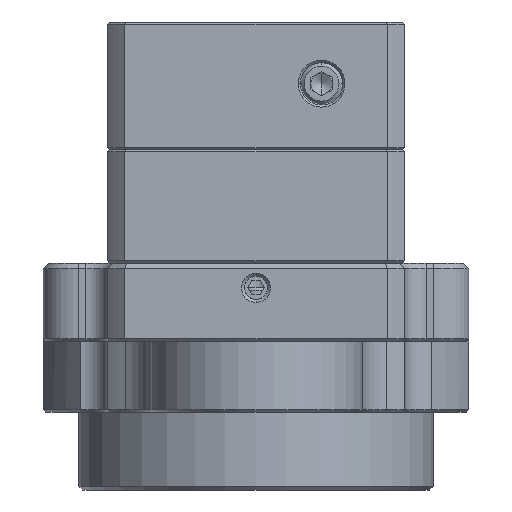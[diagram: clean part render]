
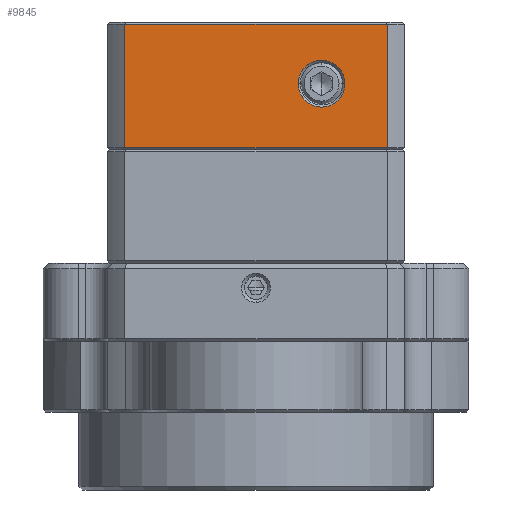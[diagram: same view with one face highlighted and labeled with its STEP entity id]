
A CAD part, front view. The second image highlights one B-rep face of the part: STEP entity #9845.
In plain terms, the highlighted planar face has unit normal (0, -1, 0).
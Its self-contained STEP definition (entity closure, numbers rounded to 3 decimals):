
#162 = CARTESIAN_POINT ( 'NONE',  ( -18.063, -53., 33.7 ) ) ;
#174 = DIRECTION ( 'NONE',  ( -1., 0., 0. ) ) ;
#211 = CARTESIAN_POINT ( 'NONE',  ( -18.52, -53., 16. ) ) ;
#222 = DIRECTION ( 'NONE',  ( 0., 0., -1. ) ) ;
#279 = DIRECTION ( 'NONE',  ( 1., 0., 0. ) ) ;
#293 = CARTESIAN_POINT ( 'NONE',  ( 18.063, -53., 16.3 ) ) ;
#323 = CARTESIAN_POINT ( 'NONE',  ( 9.25, -53., 25.3 ) ) ;
#325 = DIRECTION ( 'NONE',  ( 1., 0., 0. ) ) ;
#368 = DIRECTION ( 'NONE',  ( 0., 1., 0. ) ) ;
#537 = CARTESIAN_POINT ( 'NONE',  ( 18.52, -53., 16. ) ) ;
#551 = DIRECTION ( 'NONE',  ( 0., 0., 1. ) ) ;
#3937 = CIRCLE ( 'NONE', #25421, 3.3 ) ;
#6333 = CARTESIAN_POINT ( 'NONE',  ( -18.52, -53., 16.3 ) ) ;
#6338 = CARTESIAN_POINT ( 'NONE',  ( 18.52, -53., 16.3 ) ) ;
#6356 = CARTESIAN_POINT ( 'NONE',  ( -18.52, -53., 33.7 ) ) ;
#6366 = CARTESIAN_POINT ( 'NONE',  ( 18.52, -53., 33.7 ) ) ;
#6807 = CARTESIAN_POINT ( 'NONE',  ( 12.55, -53., 25.3 ) ) ;
#6874 = CARTESIAN_POINT ( 'NONE',  ( 5.95, -53., 25.3 ) ) ;
#7655 = DIRECTION ( 'NONE',  ( 0., 1., 0. ) ) ;
#7660 = CARTESIAN_POINT ( 'NONE',  ( 9.25, -53., 25.3 ) ) ;
#7684 = DIRECTION ( 'NONE',  ( 1., 0., 0. ) ) ;
#9845 = ADVANCED_FACE ( 'NONE', ( #20940, #20952 ), #21851, .T. ) ;
#10619 = EDGE_CURVE ( 'NONE', #13818, #13824, #25938, .T. ) ;
#10634 = EDGE_CURVE ( 'NONE', #13824, #13834, #25888, .T. ) ;
#10658 = EDGE_CURVE ( 'NONE', #13834, #13810, #25988, .T. ) ;
#10678 = EDGE_CURVE ( 'NONE', #14464, #14429, #25977, .T. ) ;
#10731 = EDGE_CURVE ( 'NONE', #13810, #13818, #26040, .T. ) ;
#13294 = AXIS2_PLACEMENT_3D ( 'NONE', #21826, #21818, #21820 ) ;
#13810 = VERTEX_POINT ( 'NONE', #6338 ) ;
#13818 = VERTEX_POINT ( 'NONE', #6366 ) ;
#13824 = VERTEX_POINT ( 'NONE', #6356 ) ;
#13834 = VERTEX_POINT ( 'NONE', #6333 ) ;
#14429 = VERTEX_POINT ( 'NONE', #6807 ) ;
#14464 = VERTEX_POINT ( 'NONE', #6874 ) ;
#16118 = EDGE_CURVE ( 'NONE', #14429, #14464, #3937, .T. ) ;
#17633 = EDGE_LOOP ( 'NONE', ( #18536, #18507 ) ) ;
#17654 = EDGE_LOOP ( 'NONE', ( #18465, #18509, #18497, #18527 ) ) ;
#18465 = ORIENTED_EDGE ( 'NONE', *, *, #10634, .T. ) ;
#18497 = ORIENTED_EDGE ( 'NONE', *, *, #10731, .T. ) ;
#18507 = ORIENTED_EDGE ( 'NONE', *, *, #10678, .T. ) ;
#18509 = ORIENTED_EDGE ( 'NONE', *, *, #10658, .T. ) ;
#18527 = ORIENTED_EDGE ( 'NONE', *, *, #10619, .T. ) ;
#18536 = ORIENTED_EDGE ( 'NONE', *, *, #16118, .T. ) ;
#20940 = FACE_BOUND ( 'NONE', #17633, .T. ) ;
#20952 = FACE_OUTER_BOUND ( 'NONE', #17654, .T. ) ;
#21818 = DIRECTION ( 'NONE',  ( 0., -1., 0. ) ) ;
#21820 = DIRECTION ( 'NONE',  ( 1., 0., 0. ) ) ;
#21826 = CARTESIAN_POINT ( 'NONE',  ( -21., -53., 16. ) ) ;
#21851 = PLANE ( 'NONE',  #13294 ) ;
#25095 = AXIS2_PLACEMENT_3D ( 'NONE', #323, #368, #325 ) ;
#25421 = AXIS2_PLACEMENT_3D ( 'NONE', #7660, #7655, #7684 ) ;
#25888 = LINE ( 'NONE', #211, #25899 ) ;
#25899 = VECTOR ( 'NONE', #222, 1000. ) ;
#25936 = VECTOR ( 'NONE', #174, 1000. ) ;
#25938 = LINE ( 'NONE', #162, #25936 ) ;
#25970 = VECTOR ( 'NONE', #279, 1000. ) ;
#25977 = CIRCLE ( 'NONE', #25095, 3.3 ) ;
#25988 = LINE ( 'NONE', #293, #25970 ) ;
#26017 = VECTOR ( 'NONE', #551, 1000. ) ;
#26040 = LINE ( 'NONE', #537, #26017 ) ;
